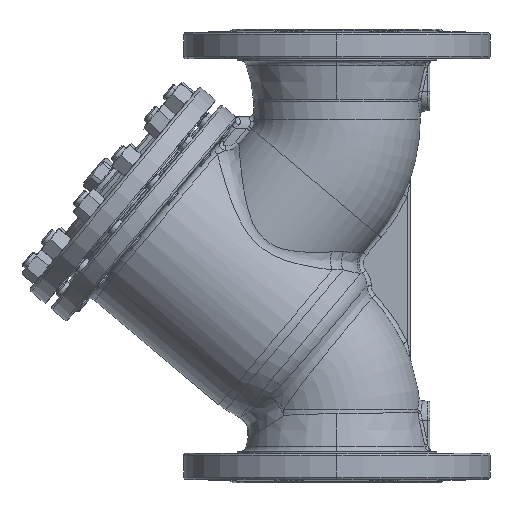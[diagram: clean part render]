
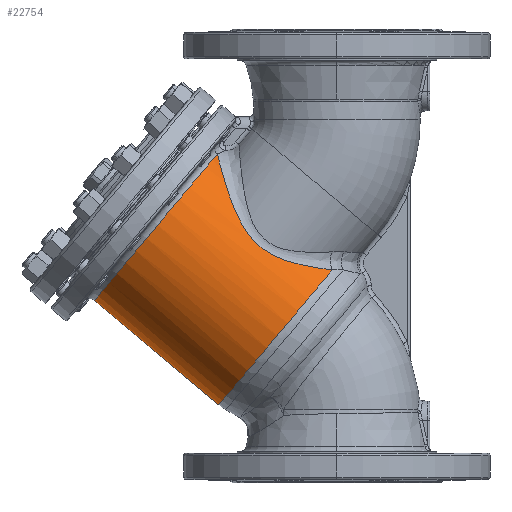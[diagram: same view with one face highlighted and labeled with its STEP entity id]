
A CAD part, left-side view. The second image highlights one B-rep face of the part: STEP entity #22754.
In plain terms, the highlighted cylindrical face has radius 87 mm (diameter 174 mm), a partial arc.
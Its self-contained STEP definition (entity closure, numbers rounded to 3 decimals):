
#11809 = FACE_OUTER_BOUND ( 'NONE', #21863, .T. ) ;
#11820 = CYLINDRICAL_SURFACE ( 'NONE', #27366, 87. ) ;
#12740 = DIRECTION ( 'NONE',  ( 0., 0.643, -0.766 ) ) ;
#12745 = DIRECTION ( 'NONE',  ( 0., -0.766, -0.643 ) ) ;
#12746 = CARTESIAN_POINT ( 'NONE',  ( 0., 0., 95. ) ) ;
#15008 = CARTESIAN_POINT ( 'NONE',  ( 0., 213.806, 160.834 ) ) ;
#15018 = CARTESIAN_POINT ( 'NONE',  ( 0., 103.934, 68.641 ) ) ;
#15048 = CARTESIAN_POINT ( 'NONE',  ( -53.591, 3.958, 187.787 ) ) ;
#15208 = CARTESIAN_POINT ( 'NONE',  ( -30.212, 105.441, 289.979 ) ) ;
#18906 = AXIS2_PLACEMENT_3D ( 'NONE', #43089, #43090, #43092 ) ;
#18907 = AXIS2_PLACEMENT_3D ( 'NONE', #43094, #43100, #43101 ) ;
#21616 = VERTEX_POINT ( 'NONE', #15008 ) ;
#21621 = VERTEX_POINT ( 'NONE', #15018 ) ;
#21636 = VERTEX_POINT ( 'NONE', #15048 ) ;
#21717 = VERTEX_POINT ( 'NONE', #15208 ) ;
#21863 = EDGE_LOOP ( 'NONE', ( #30997, #30998, #30999, #31000 ) ) ;
#22754 = ADVANCED_FACE ( 'NONE', ( #11809 ), #11820, .T. ) ;
#27366 = AXIS2_PLACEMENT_3D ( 'NONE', #12746, #12745, #12740 ) ;
#30997 = ORIENTED_EDGE ( 'NONE', *, *, #31812, .T. ) ;
#30998 = ORIENTED_EDGE ( 'NONE', *, *, #31811, .T. ) ;
#30999 = ORIENTED_EDGE ( 'NONE', *, *, #31810, .T. ) ;
#31000 = ORIENTED_EDGE ( 'NONE', *, *, #31813, .T. ) ;
#31810 = EDGE_CURVE ( 'NONE', #21621, #21636, #43255, .T. ) ;
#31811 = EDGE_CURVE ( 'NONE', #21616, #21621, #43253, .T. ) ;
#31812 = EDGE_CURVE ( 'NONE', #21717, #21616, #43263, .T. ) ;
#31813 = EDGE_CURVE ( 'NONE', #21636, #21717, #37030, .T. ) ;
#37030 = B_SPLINE_CURVE_WITH_KNOTS ( 'NONE', 3,
 ( #43098, #43104, #43106, #43108, #43109, #43110, #43112, #43113, #43115, #43116, #43117, #43118, #43120, #43121, #43122, #43124, #43125, #43127, #43128, #43129, #43131, #43133, #43135, #43136, #43138, #43139, #43140, #43142, #43144, #43146, #43148, #43149, #43151, #43153, #43155, #43156, #43158, #43159, #43161, #43163, #43165, #43167, #43168, #43169, #43170, #43171, #43173, #43175, #43177, #43178, #43180, #43182, #43183, #43184, #43185, #43186, #43188, #43189 ),
 .UNSPECIFIED., .F., .F.,
 ( 4, 2, 2, 2, 2, 2, 2, 2, 2, 2, 2, 2, 2, 2, 2, 2, 2, 2, 2, 2, 2, 2, 2, 2, 2, 2, 2, 2, 4 ),
 ( 0., 0.011, 0.022, 0.033, 0.036, 0.039, 0.044, 0.05, 0.053, 0.055, 0.066, 0.069, 0.072, 0.078, 0.083, 0.086, 0.089, 0.1, 0.105, 0.108, 0.111, 0.122, 0.133, 0.144, 0.155, 0.166, 0.172, 0.175, 0.177 ),
 .UNSPECIFIED. ) ;
#42657 = CARTESIAN_POINT ( 'NONE',  ( 0., 55.923, 28.354 ) ) ;
#43089 = CARTESIAN_POINT ( 'NONE',  ( 0., 48.011, 135.286 ) ) ;
#43090 = DIRECTION ( 'NONE',  ( 0., 0.766, 0.643 ) ) ;
#43092 = DIRECTION ( 'NONE',  ( 0., -0.643, 0.766 ) ) ;
#43094 = CARTESIAN_POINT ( 'NONE',  ( 0., 157.884, 227.48 ) ) ;
#43097 = DIRECTION ( 'NONE',  ( 0., -0.766, -0.643 ) ) ;
#43098 = CARTESIAN_POINT ( 'NONE',  ( -53.591, 3.958, 187.787 ) ) ;
#43100 = DIRECTION ( 'NONE',  ( 0., -0.766, -0.643 ) ) ;
#43101 = DIRECTION ( 'NONE',  ( 0., -0.643, 0.766 ) ) ;
#43104 = CARTESIAN_POINT ( 'NONE',  ( -55.748, 6.995, 188.133 ) ) ;
#43106 = CARTESIAN_POINT ( 'NONE',  ( -57.723, 10.117, 188.524 ) ) ;
#43108 = CARTESIAN_POINT ( 'NONE',  ( -61.358, 16.499, 189.425 ) ) ;
#43109 = CARTESIAN_POINT ( 'NONE',  ( -63.018, 19.76, 189.936 ) ) ;
#43110 = CARTESIAN_POINT ( 'NONE',  ( -66.048, 26.399, 191.132 ) ) ;
#43112 = CARTESIAN_POINT ( 'NONE',  ( -67.419, 29.778, 191.816 ) ) ;
#43113 = CARTESIAN_POINT ( 'NONE',  ( -68.955, 34.062, 192.836 ) ) ;
#43115 = CARTESIAN_POINT ( 'NONE',  ( -69.253, 34.923, 193.049 ) ) ;
#43116 = CARTESIAN_POINT ( 'NONE',  ( -69.83, 36.644, 193.491 ) ) ;
#43117 = CARTESIAN_POINT ( 'NONE',  ( -70.109, 37.504, 193.72 ) ) ;
#43118 = CARTESIAN_POINT ( 'NONE',  ( -70.914, 40.083, 194.436 ) ) ;
#43120 = CARTESIAN_POINT ( 'NONE',  ( -71.412, 41.799, 194.951 ) ) ;
#43121 = CARTESIAN_POINT ( 'NONE',  ( -72.328, 45.223, 196.072 ) ) ;
#43122 = CARTESIAN_POINT ( 'NONE',  ( -72.746, 46.93, 196.677 ) ) ;
#43124 = CARTESIAN_POINT ( 'NONE',  ( -73.312, 49.478, 197.67 ) ) ;
#43125 = CARTESIAN_POINT ( 'NONE',  ( -73.49, 50.326, 198.014 ) ) ;
#43127 = CARTESIAN_POINT ( 'NONE',  ( -73.826, 52.016, 198.735 ) ) ;
#43128 = CARTESIAN_POINT ( 'NONE',  ( -73.984, 52.86, 199.111 ) ) ;
#43129 = CARTESIAN_POINT ( 'NONE',  ( -74.716, 57.046, 201.069 ) ) ;
#43131 = CARTESIAN_POINT ( 'NONE',  ( -75.117, 60.271, 202.873 ) ) ;
#43133 = CARTESIAN_POINT ( 'NONE',  ( -75.375, 64.101, 205.502 ) ) ;
#43135 = CARTESIAN_POINT ( 'NONE',  ( -75.415, 64.856, 206.047 ) ) ;
#43136 = CARTESIAN_POINT ( 'NONE',  ( -75.469, 66.347, 207.175 ) ) ;
#43138 = CARTESIAN_POINT ( 'NONE',  ( -75.483, 67.084, 207.759 ) ) ;
#43139 = CARTESIAN_POINT ( 'NONE',  ( -75.489, 69.239, 209.556 ) ) ;
#43140 = CARTESIAN_POINT ( 'NONE',  ( -75.442, 70.609, 210.813 ) ) ;
#43142 = CARTESIAN_POINT ( 'NONE',  ( -75.25, 73.224, 213.441 ) ) ;
#43144 = CARTESIAN_POINT ( 'NONE',  ( -75.105, 74.468, 214.811 ) ) ;
#43146 = CARTESIAN_POINT ( 'NONE',  ( -74.816, 76.248, 216.943 ) ) ;
#43148 = CARTESIAN_POINT ( 'NONE',  ( -74.708, 76.827, 217.667 ) ) ;
#43149 = CARTESIAN_POINT ( 'NONE',  ( -74.467, 77.958, 219.138 ) ) ;
#43151 = CARTESIAN_POINT ( 'NONE',  ( -74.335, 78.509, 219.886 ) ) ;
#43153 = CARTESIAN_POINT ( 'NONE',  ( -73.621, 81.179, 223.648 ) ) ;
#43155 = CARTESIAN_POINT ( 'NONE',  ( -72.879, 83.06, 226.757 ) ) ;
#43156 = CARTESIAN_POINT ( 'NONE',  ( -71.527, 85.623, 231.506 ) ) ;
#43158 = CARTESIAN_POINT ( 'NONE',  ( -71.037, 86.433, 233.103 ) ) ;
#43159 = CARTESIAN_POINT ( 'NONE',  ( -70.241, 87.594, 235.514 ) ) ;
#43161 = CARTESIAN_POINT ( 'NONE',  ( -69.966, 87.972, 236.321 ) ) ;
#43163 = CARTESIAN_POINT ( 'NONE',  ( -69.396, 88.712, 237.937 ) ) ;
#43165 = CARTESIAN_POINT ( 'NONE',  ( -69.101, 89.073, 238.747 ) ) ;
#43167 = CARTESIAN_POINT ( 'NONE',  ( -67.582, 90.832, 242.784 ) ) ;
#43168 = CARTESIAN_POINT ( 'NONE',  ( -66.226, 92.1, 245.989 ) ) ;
#43169 = CARTESIAN_POINT ( 'NONE',  ( -63.225, 94.443, 252.317 ) ) ;
#43170 = CARTESIAN_POINT ( 'NONE',  ( -61.58, 95.519, 255.44 ) ) ;
#43171 = CARTESIAN_POINT ( 'NONE',  ( -57.976, 97.525, 261.573 ) ) ;
#43173 = CARTESIAN_POINT ( 'NONE',  ( -56.018, 98.457, 264.584 ) ) ;
#43175 = CARTESIAN_POINT ( 'NONE',  ( -51.738, 100.204, 270.456 ) ) ;
#43177 = CARTESIAN_POINT ( 'NONE',  ( -49.452, 101.005, 273.27 ) ) ;
#43178 = CARTESIAN_POINT ( 'NONE',  ( -44.559, 102.483, 278.611 ) ) ;
#43180 = CARTESIAN_POINT ( 'NONE',  ( -41.953, 103.16, 281.139 ) ) ;
#43182 = CARTESIAN_POINT ( 'NONE',  ( -37.762, 104.086, 284.674 ) ) ;
#43183 = CARTESIAN_POINT ( 'NONE',  ( -36.317, 104.38, 285.809 ) ) ;
#43184 = CARTESIAN_POINT ( 'NONE',  ( -34.072, 104.798, 287.44 ) ) ;
#43185 = CARTESIAN_POINT ( 'NONE',  ( -33.311, 104.933, 287.971 ) ) ;
#43186 = CARTESIAN_POINT ( 'NONE',  ( -31.774, 105.194, 289. ) ) ;
#43188 = CARTESIAN_POINT ( 'NONE',  ( -30.997, 105.32, 289.497 ) ) ;
#43189 = CARTESIAN_POINT ( 'NONE',  ( -30.212, 105.441, 289.979 ) ) ;
#43239 = VECTOR ( 'NONE', #43097, 1000. ) ;
#43253 = LINE ( 'NONE', #42657, #43239 ) ;
#43255 = CIRCLE ( 'NONE', #18906, 87. ) ;
#43263 = CIRCLE ( 'NONE', #18907, 87. ) ;
